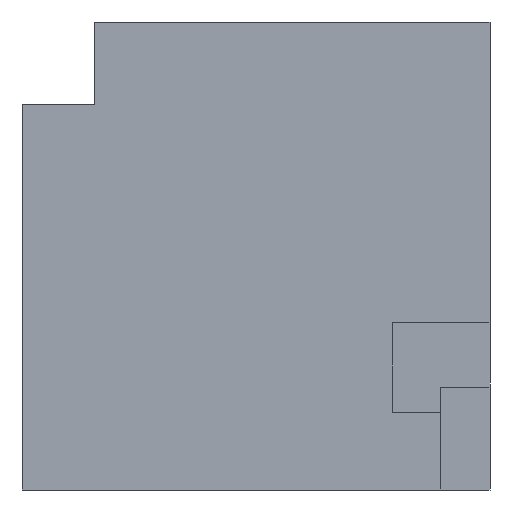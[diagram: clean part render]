
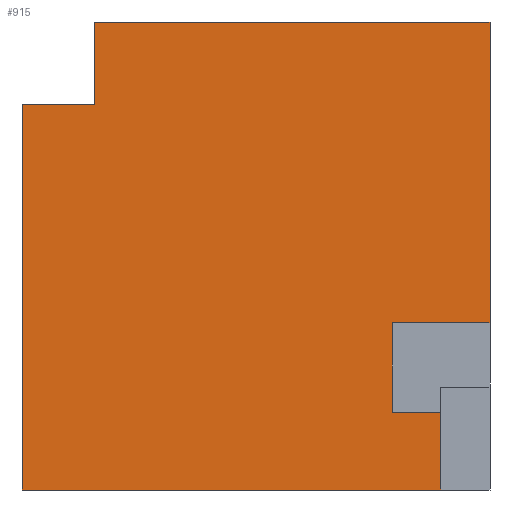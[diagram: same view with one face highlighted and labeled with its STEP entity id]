
A CAD part, front view. The second image highlights one B-rep face of the part: STEP entity #915.
In plain terms, the highlighted planar face has unit normal (0, -1, 0).
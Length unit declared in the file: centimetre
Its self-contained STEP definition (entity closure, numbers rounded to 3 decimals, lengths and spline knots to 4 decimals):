
#97 = LINE ( 'NONE', #1025, #829 ) ;
#106 = CARTESIAN_POINT ( 'NONE',  ( 0., 0., 1000. ) ) ;
#127 = VECTOR ( 'NONE', #615, 100. ) ;
#137 = CARTESIAN_POINT ( 'NONE',  ( 1000., 0., 357.6138 ) ) ;
#144 = VECTOR ( 'NONE', #1285, 100. ) ;
#196 = LINE ( 'NONE', #106, #1413 ) ;
#203 = ORIENTED_EDGE ( 'NONE', *, *, #577, .F. ) ;
#233 = DIRECTION ( 'NONE',  ( -1., 0., 0. ) ) ;
#234 = CARTESIAN_POINT ( 'NONE',  ( 154.3099, 0., 823.6227 ) ) ;
#244 = DIRECTION ( 'NONE',  ( 1., 0., 0. ) ) ;
#254 = AXIS2_PLACEMENT_3D ( 'NONE', #1396, #1271, #1571 ) ;
#309 = VERTEX_POINT ( 'NONE', #137 ) ;
#355 = LINE ( 'NONE', #1437, #424 ) ;
#386 = ORIENTED_EDGE ( 'NONE', *, *, #1214, .T. ) ;
#387 = CARTESIAN_POINT ( 'NONE',  ( 1000., 0., 1000. ) ) ;
#416 = EDGE_CURVE ( 'NONE', #1278, #1283, #871, .T. ) ;
#424 = VECTOR ( 'NONE', #233, 100. ) ;
#452 = PLANE ( 'NONE',  #254 ) ;
#460 = ORIENTED_EDGE ( 'NONE', *, *, #1012, .F. ) ;
#461 = EDGE_LOOP ( 'NONE', ( #460, #1306, #1686, #1586, #386, #203, #760, #1186, #861, #1235 ) ) ;
#462 = CARTESIAN_POINT ( 'NONE',  ( 154.3099, 0., 1000. ) ) ;
#496 = LINE ( 'NONE', #721, #1107 ) ;
#537 = EDGE_CURVE ( 'NONE', #1281, #309, #1164, .T. ) ;
#545 = CARTESIAN_POINT ( 'NONE',  ( 0., 0., 1000. ) ) ;
#577 = EDGE_CURVE ( 'NONE', #919, #748, #1293, .T. ) ;
#584 = EDGE_CURVE ( 'NONE', #309, #1278, #355, .T. ) ;
#591 = CARTESIAN_POINT ( 'NONE',  ( 0., 0., 0. ) ) ;
#596 = FACE_OUTER_BOUND ( 'NONE', #461, .T. ) ;
#615 = DIRECTION ( 'NONE',  ( 0., 0., 1. ) ) ;
#643 = VERTEX_POINT ( 'NONE', #1076 ) ;
#658 = LINE ( 'NONE', #545, #710 ) ;
#709 = VECTOR ( 'NONE', #1447, 100. ) ;
#710 = VECTOR ( 'NONE', #244, 100. ) ;
#721 = CARTESIAN_POINT ( 'NONE',  ( 0., 0., 823.6227 ) ) ;
#728 = CARTESIAN_POINT ( 'NONE',  ( 894.6815, 0., 165.7995 ) ) ;
#738 = DIRECTION ( 'NONE',  ( 1., 0., 0. ) ) ;
#748 = VERTEX_POINT ( 'NONE', #1503 ) ;
#756 = CARTESIAN_POINT ( 'NONE',  ( 790.8465, 0., 165.7995 ) ) ;
#760 = ORIENTED_EDGE ( 'NONE', *, *, #1269, .F. ) ;
#779 = CARTESIAN_POINT ( 'NONE',  ( 894.6815, 0., 0. ) ) ;
#829 = VECTOR ( 'NONE', #1555, 100. ) ;
#841 = EDGE_CURVE ( 'NONE', #1163, #643, #196, .T. ) ;
#852 = DIRECTION ( 'NONE',  ( 0., 0., -1. ) ) ;
#861 = ORIENTED_EDGE ( 'NONE', *, *, #584, .F. ) ;
#864 = EDGE_CURVE ( 'NONE', #1163, #1334, #496, .T. ) ;
#871 = LINE ( 'NONE', #1406, #1569 ) ;
#915 = ADVANCED_FACE ( 'NONE', ( #596 ), #452, .F. ) ;
#919 = VERTEX_POINT ( 'NONE', #728 ) ;
#945 = VERTEX_POINT ( 'NONE', #462 ) ;
#1012 = EDGE_CURVE ( 'NONE', #945, #1281, #658, .T. ) ;
#1025 = CARTESIAN_POINT ( 'NONE',  ( 790.8465, 0., 165.7995 ) ) ;
#1047 = VECTOR ( 'NONE', #1663, 100. ) ;
#1076 = CARTESIAN_POINT ( 'NONE',  ( 0., 0., 0. ) ) ;
#1107 = VECTOR ( 'NONE', #738, 100. ) ;
#1163 = VERTEX_POINT ( 'NONE', #1374 ) ;
#1164 = LINE ( 'NONE', #387, #709 ) ;
#1186 = ORIENTED_EDGE ( 'NONE', *, *, #416, .F. ) ;
#1214 = EDGE_CURVE ( 'NONE', #643, #748, #1257, .T. ) ;
#1235 = ORIENTED_EDGE ( 'NONE', *, *, #537, .F. ) ;
#1257 = LINE ( 'NONE', #591, #1047 ) ;
#1269 = EDGE_CURVE ( 'NONE', #1283, #919, #97, .T. ) ;
#1271 = DIRECTION ( 'NONE',  ( 0., 1., 0. ) ) ;
#1273 = DIRECTION ( 'NONE',  ( 0., 0., -1. ) ) ;
#1278 = VERTEX_POINT ( 'NONE', #1441 ) ;
#1280 = LINE ( 'NONE', #1696, #127 ) ;
#1281 = VERTEX_POINT ( 'NONE', #1295 ) ;
#1283 = VERTEX_POINT ( 'NONE', #756 ) ;
#1285 = DIRECTION ( 'NONE',  ( 0., 0., -1. ) ) ;
#1293 = LINE ( 'NONE', #779, #144 ) ;
#1295 = CARTESIAN_POINT ( 'NONE',  ( 1000., 0., 1000. ) ) ;
#1306 = ORIENTED_EDGE ( 'NONE', *, *, #1378, .F. ) ;
#1334 = VERTEX_POINT ( 'NONE', #234 ) ;
#1374 = CARTESIAN_POINT ( 'NONE',  ( 0., 0., 823.6227 ) ) ;
#1378 = EDGE_CURVE ( 'NONE', #1334, #945, #1280, .T. ) ;
#1396 = CARTESIAN_POINT ( 'NONE',  ( 0., 0., 1000. ) ) ;
#1406 = CARTESIAN_POINT ( 'NONE',  ( 790.8465, 0., 165.7995 ) ) ;
#1413 = VECTOR ( 'NONE', #852, 100. ) ;
#1437 = CARTESIAN_POINT ( 'NONE',  ( 790.8465, 0., 357.6138 ) ) ;
#1441 = CARTESIAN_POINT ( 'NONE',  ( 790.8465, 0., 357.6138 ) ) ;
#1447 = DIRECTION ( 'NONE',  ( 0., 0., -1. ) ) ;
#1503 = CARTESIAN_POINT ( 'NONE',  ( 894.6815, 0., 0. ) ) ;
#1555 = DIRECTION ( 'NONE',  ( 1., 0., 0. ) ) ;
#1569 = VECTOR ( 'NONE', #1273, 100. ) ;
#1571 = DIRECTION ( 'NONE',  ( 0., 0., 1. ) ) ;
#1586 = ORIENTED_EDGE ( 'NONE', *, *, #841, .T. ) ;
#1663 = DIRECTION ( 'NONE',  ( 1., 0., 0. ) ) ;
#1686 = ORIENTED_EDGE ( 'NONE', *, *, #864, .F. ) ;
#1696 = CARTESIAN_POINT ( 'NONE',  ( 154.3099, 0., 823.6227 ) ) ;
